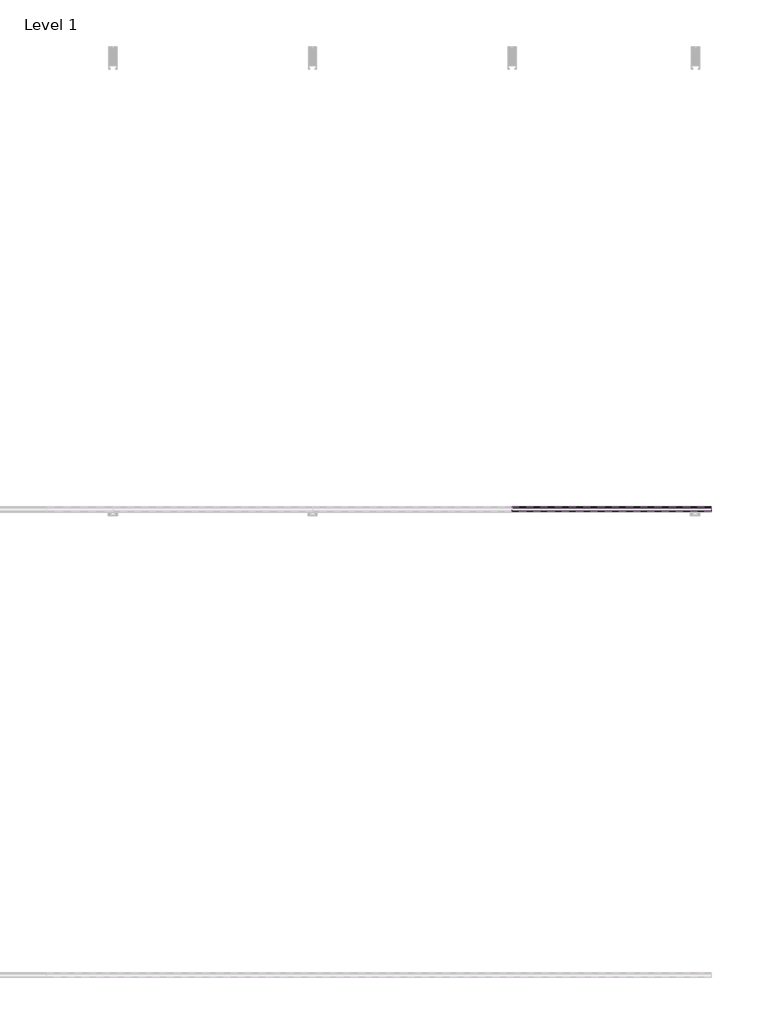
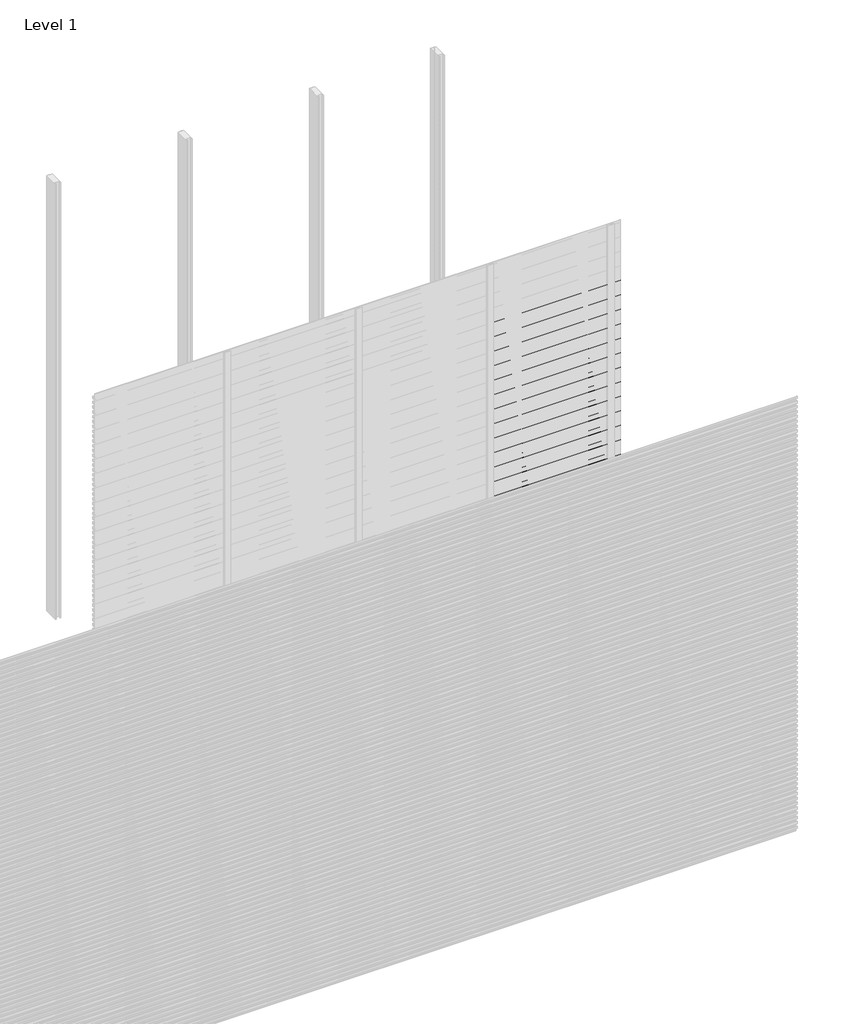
# One storey, part 59 of 96: 77 proxies.
"""IFC4 building model written with IfcOpenShell, lengths in millimetres."""

from ifc_helpers import new_model, si_unit, frame, origin, place, context, project, spatial, polyline, outline, extrude, element, save

model = new_model("IFC4")

# Units and contexts
model_context = context("Model", 3, world=origin())
ifc_project = project(units=[si_unit("LENGTHUNIT", "METRE", prefix="MILLI")], contexts=[model_context])

# Site, building, storey
site = spatial("IfcSite", under=ifc_project)
building = spatial("IfcBuilding", under=site)
storey = spatial("IfcBuildingStorey", under=building, Name="Level 1", Elevation=0.0)

# Proxies
placement = place(None, origin())
element("IfcBuildingElementProxy", 1, Name="Wall Sweeps", at=placement, inside=storey, context=model_context, shape_type="SweptSolid", body=[
    extrude(outline(polyline([(-23977.6, 2638.7655033), (-23977.6, 2624.4779188), (-23982.4114965, 2621.7), (-23982.4114965, 2622.9701706), (-23978.85, 2625.0264016), (-23978.85, 2638.0437382), (-23998.0, 2649.1000799), (-23998.0, 2664.0), (-23996.75, 2664.0), (-23996.75, 2649.8217609), (-23977.6, 2638.7655033)])), frame((5142.8571429, 0.0, 0.0), z_axis=(1.0, 0.0, 0.0), x_axis=(0.0, 1.0, 0.0)), (0.0, 0.0, 1.0), 857.1428571),
])
element("IfcBuildingElementProxy", 2, Name="Wall Sweeps", at=placement, inside=storey, context=model_context, shape_type="SweptSolid", body=[
    extrude(outline(polyline([(-23977.6, 2605.4655033), (-23977.6, 2591.1779188), (-23982.4114965, 2588.4), (-23982.4114965, 2589.6701706), (-23978.85, 2591.7264016), (-23978.85, 2604.7437382), (-23998.0, 2615.8000799), (-23998.0, 2630.7), (-23996.75, 2630.7), (-23996.75, 2616.5217609), (-23977.6, 2605.4655033)])), frame((5142.8571429, 0.0, 0.0), z_axis=(1.0, 0.0, 0.0), x_axis=(0.0, 1.0, 0.0)), (0.0, 0.0, 1.0), 857.1428571),
])
element("IfcBuildingElementProxy", 3, Name="Wall Sweeps", at=placement, inside=storey, context=model_context, shape_type="SweptSolid", body=[
    extrude(outline(polyline([(-23977.6, 2572.1655033), (-23977.6, 2557.8779188), (-23982.4114965, 2555.1), (-23982.4114965, 2556.3701706), (-23978.85, 2558.4264016), (-23978.85, 2571.4437382), (-23998.0, 2582.5000799), (-23998.0, 2597.4), (-23996.75, 2597.4), (-23996.75, 2583.2217609), (-23977.6, 2572.1655033)])), frame((5142.8571429, 0.0, 0.0), z_axis=(1.0, 0.0, 0.0), x_axis=(0.0, 1.0, 0.0)), (0.0, 0.0, 1.0), 857.1428571),
])
element("IfcBuildingElementProxy", 4, Name="Wall Sweeps", at=placement, inside=storey, context=model_context, shape_type="SweptSolid", body=[
    extrude(outline(polyline([(-23977.6, 2538.8655033), (-23977.6, 2524.5779188), (-23982.4114965, 2521.8), (-23982.4114965, 2523.0701706), (-23978.85, 2525.1264016), (-23978.85, 2538.1437382), (-23998.0, 2549.2000799), (-23998.0, 2564.1), (-23996.75, 2564.1), (-23996.75, 2549.9217609), (-23977.6, 2538.8655033)])), frame((5142.8571429, 0.0, 0.0), z_axis=(1.0, 0.0, 0.0), x_axis=(0.0, 1.0, 0.0)), (0.0, 0.0, 1.0), 857.1428571),
])
element("IfcBuildingElementProxy", 5, Name="Wall Sweeps", at=placement, inside=storey, context=model_context, shape_type="SweptSolid", body=[
    extrude(outline(polyline([(-23977.6, 2505.5655033), (-23977.6, 2491.2779188), (-23982.4114965, 2488.5), (-23982.4114965, 2489.7701706), (-23978.85, 2491.8264016), (-23978.85, 2504.8437382), (-23998.0, 2515.9000799), (-23998.0, 2530.8), (-23996.75, 2530.8), (-23996.75, 2516.6217609), (-23977.6, 2505.5655033)])), frame((5142.8571429, 0.0, 0.0), z_axis=(1.0, 0.0, 0.0), x_axis=(0.0, 1.0, 0.0)), (0.0, 0.0, 1.0), 857.1428571),
])
element("IfcBuildingElementProxy", 6, Name="Wall Sweeps", at=placement, inside=storey, context=model_context, shape_type="SweptSolid", body=[
    extrude(outline(polyline([(-23977.6, 2472.2655033), (-23977.6, 2457.9779188), (-23982.4114965, 2455.2), (-23982.4114965, 2456.4701706), (-23978.85, 2458.5264016), (-23978.85, 2471.5437382), (-23998.0, 2482.6000799), (-23998.0, 2497.5), (-23996.75, 2497.5), (-23996.75, 2483.3217609), (-23977.6, 2472.2655033)])), frame((5142.8571429, 0.0, 0.0), z_axis=(1.0, 0.0, 0.0), x_axis=(0.0, 1.0, 0.0)), (0.0, 0.0, 1.0), 857.1428571),
])
element("IfcBuildingElementProxy", 7, Name="Wall Sweeps", at=placement, inside=storey, context=model_context, shape_type="SweptSolid", body=[
    extrude(outline(polyline([(-23977.6, 2438.9655033), (-23977.6, 2424.6779188), (-23982.4114965, 2421.9), (-23982.4114965, 2423.1701706), (-23978.85, 2425.2264016), (-23978.85, 2438.2437382), (-23998.0, 2449.3000799), (-23998.0, 2464.2), (-23996.75, 2464.2), (-23996.75, 2450.0217609), (-23977.6, 2438.9655033)])), frame((5142.8571429, 0.0, 0.0), z_axis=(1.0, 0.0, 0.0), x_axis=(0.0, 1.0, 0.0)), (0.0, 0.0, 1.0), 857.1428571),
])
element("IfcBuildingElementProxy", 8, Name="Wall Sweeps", at=placement, inside=storey, context=model_context, shape_type="SweptSolid", body=[
    extrude(outline(polyline([(-23977.6, 2405.6655033), (-23977.6, 2391.3779188), (-23982.4114965, 2388.6), (-23982.4114965, 2389.8701706), (-23978.85, 2391.9264016), (-23978.85, 2404.9437382), (-23998.0, 2416.0000799), (-23998.0, 2430.9), (-23996.75, 2430.9), (-23996.75, 2416.7217609), (-23977.6, 2405.6655033)])), frame((5142.8571429, 0.0, 0.0), z_axis=(1.0, 0.0, 0.0), x_axis=(0.0, 1.0, 0.0)), (0.0, 0.0, 1.0), 857.1428571),
])
element("IfcBuildingElementProxy", 9, Name="Wall Sweeps", at=placement, inside=storey, context=model_context, shape_type="SweptSolid", body=[
    extrude(outline(polyline([(-23977.6, 2372.3655033), (-23977.6, 2358.0779188), (-23982.4114965, 2355.3), (-23982.4114965, 2356.5701706), (-23978.85, 2358.6264016), (-23978.85, 2371.6437382), (-23998.0, 2382.7000799), (-23998.0, 2397.6), (-23996.75, 2397.6), (-23996.75, 2383.4217609), (-23977.6, 2372.3655033)])), frame((5142.8571429, 0.0, 0.0), z_axis=(1.0, 0.0, 0.0), x_axis=(0.0, 1.0, 0.0)), (0.0, 0.0, 1.0), 857.1428571),
])
element("IfcBuildingElementProxy", 10, Name="Wall Sweeps", at=placement, inside=storey, context=model_context, shape_type="SweptSolid", body=[
    extrude(outline(polyline([(-23977.6, 2339.0655033), (-23977.6, 2324.7779188), (-23982.4114965, 2322.0), (-23982.4114965, 2323.2701706), (-23978.85, 2325.3264016), (-23978.85, 2338.3437382), (-23998.0, 2349.4000799), (-23998.0, 2364.3), (-23996.75, 2364.3), (-23996.75, 2350.1217609), (-23977.6, 2339.0655033)])), frame((5142.8571429, 0.0, 0.0), z_axis=(1.0, 0.0, 0.0), x_axis=(0.0, 1.0, 0.0)), (0.0, 0.0, 1.0), 857.1428571),
])
element("IfcBuildingElementProxy", 11, Name="Wall Sweeps", at=placement, inside=storey, context=model_context, shape_type="SweptSolid", body=[
    extrude(outline(polyline([(-23977.6, 2305.7655033), (-23977.6, 2291.4779188), (-23982.4114965, 2288.7), (-23982.4114965, 2289.9701706), (-23978.85, 2292.0264016), (-23978.85, 2305.0437382), (-23998.0, 2316.1000799), (-23998.0, 2331.0), (-23996.75, 2331.0), (-23996.75, 2316.8217609), (-23977.6, 2305.7655033)])), frame((5142.8571429, 0.0, 0.0), z_axis=(1.0, 0.0, 0.0), x_axis=(0.0, 1.0, 0.0)), (0.0, 0.0, 1.0), 857.1428571),
])
element("IfcBuildingElementProxy", 12, Name="Wall Sweeps", at=placement, inside=storey, context=model_context, shape_type="SweptSolid", body=[
    extrude(outline(polyline([(-23977.6, 2272.4655033), (-23977.6, 2258.1779188), (-23982.4114965, 2255.4), (-23982.4114965, 2256.6701706), (-23978.85, 2258.7264016), (-23978.85, 2271.7437382), (-23998.0, 2282.8000799), (-23998.0, 2297.7), (-23996.75, 2297.7), (-23996.75, 2283.5217609), (-23977.6, 2272.4655033)])), frame((5142.8571429, 0.0, 0.0), z_axis=(1.0, 0.0, 0.0), x_axis=(0.0, 1.0, 0.0)), (0.0, 0.0, 1.0), 857.1428571),
])
element("IfcBuildingElementProxy", 13, Name="Wall Sweeps", at=placement, inside=storey, context=model_context, shape_type="SweptSolid", body=[
    extrude(outline(polyline([(-23977.6, 2239.1655033), (-23977.6, 2224.8779188), (-23982.4114965, 2222.1), (-23982.4114965, 2223.3701706), (-23978.85, 2225.4264016), (-23978.85, 2238.4437382), (-23998.0, 2249.5000799), (-23998.0, 2264.4), (-23996.75, 2264.4), (-23996.75, 2250.2217609), (-23977.6, 2239.1655033)])), frame((5142.8571429, 0.0, 0.0), z_axis=(1.0, 0.0, 0.0), x_axis=(0.0, 1.0, 0.0)), (0.0, 0.0, 1.0), 857.1428571),
])
element("IfcBuildingElementProxy", 14, Name="Wall Sweeps", at=placement, inside=storey, context=model_context, shape_type="SweptSolid", body=[
    extrude(outline(polyline([(-23977.6, 2205.8655033), (-23977.6, 2191.5779188), (-23982.4114965, 2188.8), (-23982.4114965, 2190.0701706), (-23978.85, 2192.1264016), (-23978.85, 2205.1437382), (-23998.0, 2216.2000799), (-23998.0, 2231.1), (-23996.75, 2231.1), (-23996.75, 2216.9217609), (-23977.6, 2205.8655033)])), frame((5142.8571429, 0.0, 0.0), z_axis=(1.0, 0.0, 0.0), x_axis=(0.0, 1.0, 0.0)), (0.0, 0.0, 1.0), 857.1428571),
])
element("IfcBuildingElementProxy", 15, Name="Wall Sweeps", at=placement, inside=storey, context=model_context, shape_type="SweptSolid", body=[
    extrude(outline(polyline([(-23977.6, 2172.5655033), (-23977.6, 2158.2779188), (-23982.4114965, 2155.5), (-23982.4114965, 2156.7701706), (-23978.85, 2158.8264016), (-23978.85, 2171.8437382), (-23998.0, 2182.9000799), (-23998.0, 2197.8), (-23996.75, 2197.8), (-23996.75, 2183.6217609), (-23977.6, 2172.5655033)])), frame((5142.8571429, 0.0, 0.0), z_axis=(1.0, 0.0, 0.0), x_axis=(0.0, 1.0, 0.0)), (0.0, 0.0, 1.0), 857.1428571),
])
element("IfcBuildingElementProxy", 16, Name="Wall Sweeps", at=placement, inside=storey, context=model_context, shape_type="SweptSolid", body=[
    extrude(outline(polyline([(-23977.6, 2139.2655033), (-23977.6, 2124.9779188), (-23982.4114965, 2122.2), (-23982.4114965, 2123.4701706), (-23978.85, 2125.5264016), (-23978.85, 2138.5437382), (-23998.0, 2149.6000799), (-23998.0, 2164.5), (-23996.75, 2164.5), (-23996.75, 2150.3217609), (-23977.6, 2139.2655033)])), frame((5142.8571429, 0.0, 0.0), z_axis=(1.0, 0.0, 0.0), x_axis=(0.0, 1.0, 0.0)), (0.0, 0.0, 1.0), 857.1428571),
])
element("IfcBuildingElementProxy", 17, Name="Wall Sweeps", at=placement, inside=storey, context=model_context, shape_type="SweptSolid", body=[
    extrude(outline(polyline([(-23977.6, 2105.9655033), (-23977.6, 2091.6779188), (-23982.4114965, 2088.9), (-23982.4114965, 2090.1701706), (-23978.85, 2092.2264016), (-23978.85, 2105.2437382), (-23998.0, 2116.3000799), (-23998.0, 2131.2), (-23996.75, 2131.2), (-23996.75, 2117.0217609), (-23977.6, 2105.9655033)])), frame((5142.8571429, 0.0, 0.0), z_axis=(1.0, 0.0, 0.0), x_axis=(0.0, 1.0, 0.0)), (0.0, 0.0, 1.0), 857.1428571),
])
element("IfcBuildingElementProxy", 18, Name="Wall Sweeps", at=placement, inside=storey, context=model_context, shape_type="SweptSolid", body=[
    extrude(outline(polyline([(-23977.6, 2072.6655033), (-23977.6, 2058.3779188), (-23982.4114965, 2055.6), (-23982.4114965, 2056.8701706), (-23978.85, 2058.9264016), (-23978.85, 2071.9437382), (-23998.0, 2083.0000799), (-23998.0, 2097.9), (-23996.75, 2097.9), (-23996.75, 2083.7217609), (-23977.6, 2072.6655033)])), frame((5142.8571429, 0.0, 0.0), z_axis=(1.0, 0.0, 0.0), x_axis=(0.0, 1.0, 0.0)), (0.0, 0.0, 1.0), 857.1428571),
])
element("IfcBuildingElementProxy", 19, Name="Wall Sweeps", at=placement, inside=storey, context=model_context, shape_type="SweptSolid", body=[
    extrude(outline(polyline([(-23977.6, 2039.3655033), (-23977.6, 2025.0779188), (-23982.4114965, 2022.3), (-23982.4114965, 2023.5701706), (-23978.85, 2025.6264016), (-23978.85, 2038.6437382), (-23998.0, 2049.7000799), (-23998.0, 2064.6), (-23996.75, 2064.6), (-23996.75, 2050.4217609), (-23977.6, 2039.3655033)])), frame((5142.8571429, 0.0, 0.0), z_axis=(1.0, 0.0, 0.0), x_axis=(0.0, 1.0, 0.0)), (0.0, 0.0, 1.0), 857.1428571),
])
element("IfcBuildingElementProxy", 20, Name="Wall Sweeps", at=placement, inside=storey, context=model_context, shape_type="SweptSolid", body=[
    extrude(outline(polyline([(-23977.6, 2006.0655033), (-23977.6, 1991.7779188), (-23982.4114965, 1989.0), (-23982.4114965, 1990.2701706), (-23978.85, 1992.3264016), (-23978.85, 2005.3437382), (-23998.0, 2016.4000799), (-23998.0, 2031.3), (-23996.75, 2031.3), (-23996.75, 2017.1217609), (-23977.6, 2006.0655033)])), frame((5142.8571429, 0.0, 0.0), z_axis=(1.0, 0.0, 0.0), x_axis=(0.0, 1.0, 0.0)), (0.0, 0.0, 1.0), 857.1428571),
])
element("IfcBuildingElementProxy", 21, Name="Wall Sweeps", at=placement, inside=storey, context=model_context, shape_type="SweptSolid", body=[
    extrude(outline(polyline([(-23977.6, 1972.7655033), (-23977.6, 1958.4779188), (-23982.4114965, 1955.7), (-23982.4114965, 1956.9701706), (-23978.85, 1959.0264016), (-23978.85, 1972.0437382), (-23998.0, 1983.1000799), (-23998.0, 1998.0), (-23996.75, 1998.0), (-23996.75, 1983.8217609), (-23977.6, 1972.7655033)])), frame((5142.8571429, 0.0, 0.0), z_axis=(1.0, 0.0, 0.0), x_axis=(0.0, 1.0, 0.0)), (0.0, 0.0, 1.0), 857.1428571),
])
element("IfcBuildingElementProxy", 22, Name="Wall Sweeps", at=placement, inside=storey, context=model_context, shape_type="SweptSolid", body=[
    extrude(outline(polyline([(-23977.6, 1939.4655033), (-23977.6, 1925.1779188), (-23982.4114965, 1922.4), (-23982.4114965, 1923.6701706), (-23978.85, 1925.7264016), (-23978.85, 1938.7437382), (-23998.0, 1949.8000799), (-23998.0, 1964.7), (-23996.75, 1964.7), (-23996.75, 1950.5217609), (-23977.6, 1939.4655033)])), frame((5142.8571429, 0.0, 0.0), z_axis=(1.0, 0.0, 0.0), x_axis=(0.0, 1.0, 0.0)), (0.0, 0.0, 1.0), 857.1428571),
])
element("IfcBuildingElementProxy", 23, Name="Wall Sweeps", at=placement, inside=storey, context=model_context, shape_type="SweptSolid", body=[
    extrude(outline(polyline([(-23977.6, 1906.1655033), (-23977.6, 1891.8779188), (-23982.4114965, 1889.1), (-23982.4114965, 1890.3701706), (-23978.85, 1892.4264016), (-23978.85, 1905.4437382), (-23998.0, 1916.5000799), (-23998.0, 1931.4), (-23996.75, 1931.4), (-23996.75, 1917.2217609), (-23977.6, 1906.1655033)])), frame((5142.8571429, 0.0, 0.0), z_axis=(1.0, 0.0, 0.0), x_axis=(0.0, 1.0, 0.0)), (0.0, 0.0, 1.0), 857.1428571),
])
element("IfcBuildingElementProxy", 24, Name="Wall Sweeps", at=placement, inside=storey, context=model_context, shape_type="SweptSolid", body=[
    extrude(outline(polyline([(-23977.6, 1872.8655033), (-23977.6, 1858.5779188), (-23982.4114965, 1855.8), (-23982.4114965, 1857.0701706), (-23978.85, 1859.1264016), (-23978.85, 1872.1437382), (-23998.0, 1883.2000799), (-23998.0, 1898.1), (-23996.75, 1898.1), (-23996.75, 1883.9217609), (-23977.6, 1872.8655033)])), frame((5142.8571429, 0.0, 0.0), z_axis=(1.0, 0.0, 0.0), x_axis=(0.0, 1.0, 0.0)), (0.0, 0.0, 1.0), 857.1428571),
])
element("IfcBuildingElementProxy", 25, Name="Wall Sweeps", at=placement, inside=storey, context=model_context, shape_type="SweptSolid", body=[
    extrude(outline(polyline([(-23977.6, 1839.5655033), (-23977.6, 1825.2779188), (-23982.4114965, 1822.5), (-23982.4114965, 1823.7701706), (-23978.85, 1825.8264016), (-23978.85, 1838.8437382), (-23998.0, 1849.9000799), (-23998.0, 1864.8), (-23996.75, 1864.8), (-23996.75, 1850.6217609), (-23977.6, 1839.5655033)])), frame((5142.8571429, 0.0, 0.0), z_axis=(1.0, 0.0, 0.0), x_axis=(0.0, 1.0, 0.0)), (0.0, 0.0, 1.0), 857.1428571),
])
element("IfcBuildingElementProxy", 26, Name="Wall Sweeps", at=placement, inside=storey, context=model_context, shape_type="SweptSolid", body=[
    extrude(outline(polyline([(-23977.6, 1806.2655033), (-23977.6, 1791.9779188), (-23982.4114965, 1789.2), (-23982.4114965, 1790.4701706), (-23978.85, 1792.5264016), (-23978.85, 1805.5437382), (-23998.0, 1816.6000799), (-23998.0, 1831.5), (-23996.75, 1831.5), (-23996.75, 1817.3217609), (-23977.6, 1806.2655033)])), frame((5142.8571429, 0.0, 0.0), z_axis=(1.0, 0.0, 0.0), x_axis=(0.0, 1.0, 0.0)), (0.0, 0.0, 1.0), 857.1428571),
])
element("IfcBuildingElementProxy", 27, Name="Wall Sweeps", at=placement, inside=storey, context=model_context, shape_type="SweptSolid", body=[
    extrude(outline(polyline([(-23977.6, 1772.9655033), (-23977.6, 1758.6779188), (-23982.4114965, 1755.9), (-23982.4114965, 1757.1701706), (-23978.85, 1759.2264016), (-23978.85, 1772.2437382), (-23998.0, 1783.3000799), (-23998.0, 1798.2), (-23996.75, 1798.2), (-23996.75, 1784.0217609), (-23977.6, 1772.9655033)])), frame((5142.8571429, 0.0, 0.0), z_axis=(1.0, 0.0, 0.0), x_axis=(0.0, 1.0, 0.0)), (0.0, 0.0, 1.0), 857.1428571),
])
element("IfcBuildingElementProxy", 28, Name="Wall Sweeps", at=placement, inside=storey, context=model_context, shape_type="SweptSolid", body=[
    extrude(outline(polyline([(-23977.6, 1739.6655033), (-23977.6, 1725.3779188), (-23982.4114965, 1722.6), (-23982.4114965, 1723.8701706), (-23978.85, 1725.9264016), (-23978.85, 1738.9437382), (-23998.0, 1750.0000799), (-23998.0, 1764.9), (-23996.75, 1764.9), (-23996.75, 1750.7217609), (-23977.6, 1739.6655033)])), frame((5142.8571429, 0.0, 0.0), z_axis=(1.0, 0.0, 0.0), x_axis=(0.0, 1.0, 0.0)), (0.0, 0.0, 1.0), 857.1428571),
])
element("IfcBuildingElementProxy", 29, Name="Wall Sweeps", at=placement, inside=storey, context=model_context, shape_type="SweptSolid", body=[
    extrude(outline(polyline([(-23977.6, 1706.3655033), (-23977.6, 1692.0779188), (-23982.4114965, 1689.3), (-23982.4114965, 1690.5701706), (-23978.85, 1692.6264016), (-23978.85, 1705.6437382), (-23998.0, 1716.7000799), (-23998.0, 1731.6), (-23996.75, 1731.6), (-23996.75, 1717.4217609), (-23977.6, 1706.3655033)])), frame((5142.8571429, 0.0, 0.0), z_axis=(1.0, 0.0, 0.0), x_axis=(0.0, 1.0, 0.0)), (0.0, 0.0, 1.0), 857.1428571),
])
element("IfcBuildingElementProxy", 30, Name="Wall Sweeps", at=placement, inside=storey, context=model_context, shape_type="SweptSolid", body=[
    extrude(outline(polyline([(-23977.6, 1673.0655033), (-23977.6, 1658.7779188), (-23982.4114965, 1656.0), (-23982.4114965, 1657.2701706), (-23978.85, 1659.3264016), (-23978.85, 1672.3437382), (-23998.0, 1683.4000799), (-23998.0, 1698.3), (-23996.75, 1698.3), (-23996.75, 1684.1217609), (-23977.6, 1673.0655033)])), frame((5142.8571429, 0.0, 0.0), z_axis=(1.0, 0.0, 0.0), x_axis=(0.0, 1.0, 0.0)), (0.0, 0.0, 1.0), 857.1428571),
])
element("IfcBuildingElementProxy", 31, Name="Wall Sweeps", at=placement, inside=storey, context=model_context, shape_type="SweptSolid", body=[
    extrude(outline(polyline([(-23977.6, 1639.7655033), (-23977.6, 1625.4779188), (-23982.4114965, 1622.7), (-23982.4114965, 1623.9701706), (-23978.85, 1626.0264016), (-23978.85, 1639.0437382), (-23998.0, 1650.1000799), (-23998.0, 1665.0), (-23996.75, 1665.0), (-23996.75, 1650.8217609), (-23977.6, 1639.7655033)])), frame((5142.8571429, 0.0, 0.0), z_axis=(1.0, 0.0, 0.0), x_axis=(0.0, 1.0, 0.0)), (0.0, 0.0, 1.0), 857.1428571),
])
element("IfcBuildingElementProxy", 32, Name="Wall Sweeps", at=placement, inside=storey, context=model_context, shape_type="SweptSolid", body=[
    extrude(outline(polyline([(-23977.6, 1606.4655033), (-23977.6, 1592.1779188), (-23982.4114965, 1589.4), (-23982.4114965, 1590.6701706), (-23978.85, 1592.7264016), (-23978.85, 1605.7437382), (-23998.0, 1616.8000799), (-23998.0, 1631.7), (-23996.75, 1631.7), (-23996.75, 1617.5217609), (-23977.6, 1606.4655033)])), frame((5142.8571429, 0.0, 0.0), z_axis=(1.0, 0.0, 0.0), x_axis=(0.0, 1.0, 0.0)), (0.0, 0.0, 1.0), 857.1428571),
])
element("IfcBuildingElementProxy", 33, Name="Wall Sweeps", at=placement, inside=storey, context=model_context, shape_type="SweptSolid", body=[
    extrude(outline(polyline([(-23977.6, 1573.1655033), (-23977.6, 1558.8779188), (-23982.4114965, 1556.1), (-23982.4114965, 1557.3701706), (-23978.85, 1559.4264016), (-23978.85, 1572.4437382), (-23998.0, 1583.5000799), (-23998.0, 1598.4), (-23996.75, 1598.4), (-23996.75, 1584.2217609), (-23977.6, 1573.1655033)])), frame((5142.8571429, 0.0, 0.0), z_axis=(1.0, 0.0, 0.0), x_axis=(0.0, 1.0, 0.0)), (0.0, 0.0, 1.0), 857.1428571),
])
element("IfcBuildingElementProxy", 34, Name="Wall Sweeps", at=placement, inside=storey, context=model_context, shape_type="SweptSolid", body=[
    extrude(outline(polyline([(-23977.6, 1539.8655033), (-23977.6, 1525.5779188), (-23982.4114965, 1522.8), (-23982.4114965, 1524.0701706), (-23978.85, 1526.1264016), (-23978.85, 1539.1437382), (-23998.0, 1550.2000799), (-23998.0, 1565.1), (-23996.75, 1565.1), (-23996.75, 1550.9217609), (-23977.6, 1539.8655033)])), frame((5142.8571429, 0.0, 0.0), z_axis=(1.0, 0.0, 0.0), x_axis=(0.0, 1.0, 0.0)), (0.0, 0.0, 1.0), 857.1428571),
])
element("IfcBuildingElementProxy", 35, Name="Wall Sweeps", at=placement, inside=storey, context=model_context, shape_type="SweptSolid", body=[
    extrude(outline(polyline([(-23977.6, 1506.5655033), (-23977.6, 1492.2779188), (-23982.4114965, 1489.5), (-23982.4114965, 1490.7701706), (-23978.85, 1492.8264016), (-23978.85, 1505.8437382), (-23998.0, 1516.9000799), (-23998.0, 1531.8), (-23996.75, 1531.8), (-23996.75, 1517.6217609), (-23977.6, 1506.5655033)])), frame((5142.8571429, 0.0, 0.0), z_axis=(1.0, 0.0, 0.0), x_axis=(0.0, 1.0, 0.0)), (0.0, 0.0, 1.0), 857.1428571),
])
element("IfcBuildingElementProxy", 36, Name="Wall Sweeps", at=placement, inside=storey, context=model_context, shape_type="SweptSolid", body=[
    extrude(outline(polyline([(-23977.6, 1473.2655033), (-23977.6, 1458.9779188), (-23982.4114965, 1456.2), (-23982.4114965, 1457.4701706), (-23978.85, 1459.5264016), (-23978.85, 1472.5437382), (-23998.0, 1483.6000799), (-23998.0, 1498.5), (-23996.75, 1498.5), (-23996.75, 1484.3217609), (-23977.6, 1473.2655033)])), frame((5142.8571429, 0.0, 0.0), z_axis=(1.0, 0.0, 0.0), x_axis=(0.0, 1.0, 0.0)), (0.0, 0.0, 1.0), 857.1428571),
])
element("IfcBuildingElementProxy", 37, Name="Wall Sweeps", at=placement, inside=storey, context=model_context, shape_type="SweptSolid", body=[
    extrude(outline(polyline([(-23977.6, 1439.9655033), (-23977.6, 1425.6779188), (-23982.4114965, 1422.9), (-23982.4114965, 1424.1701706), (-23978.85, 1426.2264016), (-23978.85, 1439.2437382), (-23998.0, 1450.3000799), (-23998.0, 1465.2), (-23996.75, 1465.2), (-23996.75, 1451.0217609), (-23977.6, 1439.9655033)])), frame((5142.8571429, 0.0, 0.0), z_axis=(1.0, 0.0, 0.0), x_axis=(0.0, 1.0, 0.0)), (0.0, 0.0, 1.0), 857.1428571),
])
element("IfcBuildingElementProxy", 38, Name="Wall Sweeps", at=placement, inside=storey, context=model_context, shape_type="SweptSolid", body=[
    extrude(outline(polyline([(-23977.6, 1406.6655033), (-23977.6, 1392.3779188), (-23982.4114965, 1389.6), (-23982.4114965, 1390.8701706), (-23978.85, 1392.9264016), (-23978.85, 1405.9437382), (-23998.0, 1417.0000799), (-23998.0, 1431.9), (-23996.75, 1431.9), (-23996.75, 1417.7217609), (-23977.6, 1406.6655033)])), frame((5142.8571429, 0.0, 0.0), z_axis=(1.0, 0.0, 0.0), x_axis=(0.0, 1.0, 0.0)), (0.0, 0.0, 1.0), 857.1428571),
])
element("IfcBuildingElementProxy", 39, Name="Wall Sweeps", at=placement, inside=storey, context=model_context, shape_type="SweptSolid", body=[
    extrude(outline(polyline([(-23977.6, 1373.3655033), (-23977.6, 1359.0779188), (-23982.4114965, 1356.3), (-23982.4114965, 1357.5701706), (-23978.85, 1359.6264016), (-23978.85, 1372.6437382), (-23998.0, 1383.7000799), (-23998.0, 1398.6), (-23996.75, 1398.6), (-23996.75, 1384.4217609), (-23977.6, 1373.3655033)])), frame((5142.8571429, 0.0, 0.0), z_axis=(1.0, 0.0, 0.0), x_axis=(0.0, 1.0, 0.0)), (0.0, 0.0, 1.0), 857.1428571),
])
element("IfcBuildingElementProxy", 40, Name="Wall Sweeps", at=placement, inside=storey, context=model_context, shape_type="SweptSolid", body=[
    extrude(outline(polyline([(-23977.6, 1340.0655033), (-23977.6, 1325.7779188), (-23982.4114965, 1323.0), (-23982.4114965, 1324.2701706), (-23978.85, 1326.3264016), (-23978.85, 1339.3437382), (-23998.0, 1350.4000799), (-23998.0, 1365.3), (-23996.75, 1365.3), (-23996.75, 1351.1217609), (-23977.6, 1340.0655033)])), frame((5142.8571429, 0.0, 0.0), z_axis=(1.0, 0.0, 0.0), x_axis=(0.0, 1.0, 0.0)), (0.0, 0.0, 1.0), 857.1428571),
])
element("IfcBuildingElementProxy", 41, Name="Wall Sweeps", at=placement, inside=storey, context=model_context, shape_type="SweptSolid", body=[
    extrude(outline(polyline([(-23977.6, 1306.7655033), (-23977.6, 1292.4779188), (-23982.4114965, 1289.7), (-23982.4114965, 1290.9701706), (-23978.85, 1293.0264016), (-23978.85, 1306.0437382), (-23998.0, 1317.1000799), (-23998.0, 1332.0), (-23996.75, 1332.0), (-23996.75, 1317.8217609), (-23977.6, 1306.7655033)])), frame((5142.8571429, 0.0, 0.0), z_axis=(1.0, 0.0, 0.0), x_axis=(0.0, 1.0, 0.0)), (0.0, 0.0, 1.0), 857.1428571),
])
element("IfcBuildingElementProxy", 42, Name="Wall Sweeps", at=placement, inside=storey, context=model_context, shape_type="SweptSolid", body=[
    extrude(outline(polyline([(-23977.6, 1273.4655033), (-23977.6, 1259.1779188), (-23982.4114965, 1256.4), (-23982.4114965, 1257.6701706), (-23978.85, 1259.7264016), (-23978.85, 1272.7437382), (-23998.0, 1283.8000799), (-23998.0, 1298.7), (-23996.75, 1298.7), (-23996.75, 1284.5217609), (-23977.6, 1273.4655033)])), frame((5142.8571429, 0.0, 0.0), z_axis=(1.0, 0.0, 0.0), x_axis=(0.0, 1.0, 0.0)), (0.0, 0.0, 1.0), 857.1428571),
])
element("IfcBuildingElementProxy", 43, Name="Wall Sweeps", at=placement, inside=storey, context=model_context, shape_type="SweptSolid", body=[
    extrude(outline(polyline([(-23977.6, 1240.1655033), (-23977.6, 1225.8779188), (-23982.4114965, 1223.1), (-23982.4114965, 1224.3701706), (-23978.85, 1226.4264016), (-23978.85, 1239.4437382), (-23998.0, 1250.5000799), (-23998.0, 1265.4), (-23996.75, 1265.4), (-23996.75, 1251.2217609), (-23977.6, 1240.1655033)])), frame((5142.8571429, 0.0, 0.0), z_axis=(1.0, 0.0, 0.0), x_axis=(0.0, 1.0, 0.0)), (0.0, 0.0, 1.0), 857.1428571),
])
element("IfcBuildingElementProxy", 44, Name="Wall Sweeps", at=placement, inside=storey, context=model_context, shape_type="SweptSolid", body=[
    extrude(outline(polyline([(-23977.6, 1206.8655033), (-23977.6, 1192.5779188), (-23982.4114965, 1189.8), (-23982.4114965, 1191.0701706), (-23978.85, 1193.1264016), (-23978.85, 1206.1437382), (-23998.0, 1217.2000799), (-23998.0, 1232.1), (-23996.75, 1232.1), (-23996.75, 1217.9217609), (-23977.6, 1206.8655033)])), frame((5142.8571429, 0.0, 0.0), z_axis=(1.0, 0.0, 0.0), x_axis=(0.0, 1.0, 0.0)), (0.0, 0.0, 1.0), 857.1428571),
])
element("IfcBuildingElementProxy", 45, Name="Wall Sweeps", at=placement, inside=storey, context=model_context, shape_type="SweptSolid", body=[
    extrude(outline(polyline([(-23977.6, 1173.5655033), (-23977.6, 1159.2779188), (-23982.4114965, 1156.5), (-23982.4114965, 1157.7701706), (-23978.85, 1159.8264016), (-23978.85, 1172.8437382), (-23998.0, 1183.9000799), (-23998.0, 1198.8), (-23996.75, 1198.8), (-23996.75, 1184.6217609), (-23977.6, 1173.5655033)])), frame((5142.8571429, 0.0, 0.0), z_axis=(1.0, 0.0, 0.0), x_axis=(0.0, 1.0, 0.0)), (0.0, 0.0, 1.0), 857.1428571),
])
element("IfcBuildingElementProxy", 46, Name="Wall Sweeps", at=placement, inside=storey, context=model_context, shape_type="SweptSolid", body=[
    extrude(outline(polyline([(-23977.6, 1140.2655033), (-23977.6, 1125.9779188), (-23982.4114965, 1123.2), (-23982.4114965, 1124.4701706), (-23978.85, 1126.5264016), (-23978.85, 1139.5437382), (-23998.0, 1150.6000799), (-23998.0, 1165.5), (-23996.75, 1165.5), (-23996.75, 1151.3217609), (-23977.6, 1140.2655033)])), frame((5142.8571429, 0.0, 0.0), z_axis=(1.0, 0.0, 0.0), x_axis=(0.0, 1.0, 0.0)), (0.0, 0.0, 1.0), 857.1428571),
])
element("IfcBuildingElementProxy", 47, Name="Wall Sweeps", at=placement, inside=storey, context=model_context, shape_type="SweptSolid", body=[
    extrude(outline(polyline([(-23977.6, 1106.9655033), (-23977.6, 1092.6779188), (-23982.4114965, 1089.9), (-23982.4114965, 1091.1701706), (-23978.85, 1093.2264016), (-23978.85, 1106.2437382), (-23998.0, 1117.3000799), (-23998.0, 1132.2), (-23996.75, 1132.2), (-23996.75, 1118.0217609), (-23977.6, 1106.9655033)])), frame((5142.8571429, 0.0, 0.0), z_axis=(1.0, 0.0, 0.0), x_axis=(0.0, 1.0, 0.0)), (0.0, 0.0, 1.0), 857.1428571),
])
element("IfcBuildingElementProxy", 48, Name="Wall Sweeps", at=placement, inside=storey, context=model_context, shape_type="SweptSolid", body=[
    extrude(outline(polyline([(-23977.6, 1073.6655033), (-23977.6, 1059.3779188), (-23982.4114965, 1056.6), (-23982.4114965, 1057.8701706), (-23978.85, 1059.9264016), (-23978.85, 1072.9437382), (-23998.0, 1084.0000799), (-23998.0, 1098.9), (-23996.75, 1098.9), (-23996.75, 1084.7217609), (-23977.6, 1073.6655033)])), frame((5142.8571429, 0.0, 0.0), z_axis=(1.0, 0.0, 0.0), x_axis=(0.0, 1.0, 0.0)), (0.0, 0.0, 1.0), 857.1428571),
])
element("IfcBuildingElementProxy", 49, Name="Wall Sweeps", at=placement, inside=storey, context=model_context, shape_type="SweptSolid", body=[
    extrude(outline(polyline([(-23977.6, 1040.3655033), (-23977.6, 1026.0779188), (-23982.4114965, 1023.3), (-23982.4114965, 1024.5701706), (-23978.85, 1026.6264016), (-23978.85, 1039.6437382), (-23998.0, 1050.7000799), (-23998.0, 1065.6), (-23996.75, 1065.6), (-23996.75, 1051.4217609), (-23977.6, 1040.3655033)])), frame((5142.8571429, 0.0, 0.0), z_axis=(1.0, 0.0, 0.0), x_axis=(0.0, 1.0, 0.0)), (0.0, 0.0, 1.0), 857.1428571),
])
element("IfcBuildingElementProxy", 50, Name="Wall Sweeps", at=placement, inside=storey, context=model_context, shape_type="SweptSolid", body=[
    extrude(outline(polyline([(-23977.6, 1007.0655033), (-23977.6, 992.7779188), (-23982.4114965, 990.0), (-23982.4114965, 991.2701706), (-23978.85, 993.3264016), (-23978.85, 1006.3437382), (-23998.0, 1017.4000799), (-23998.0, 1032.3), (-23996.75, 1032.3), (-23996.75, 1018.1217609), (-23977.6, 1007.0655033)])), frame((5142.8571429, 0.0, 0.0), z_axis=(1.0, 0.0, 0.0), x_axis=(0.0, 1.0, 0.0)), (0.0, 0.0, 1.0), 857.1428571),
])
element("IfcBuildingElementProxy", 51, Name="Wall Sweeps", at=placement, inside=storey, context=model_context, shape_type="SweptSolid", body=[
    extrude(outline(polyline([(-23977.6, 973.7655033), (-23977.6, 959.4779188), (-23982.4114965, 956.7), (-23982.4114965, 957.9701706), (-23978.85, 960.0264016), (-23978.85, 973.0437382), (-23998.0, 984.1000799), (-23998.0, 999.0), (-23996.75, 999.0), (-23996.75, 984.8217609), (-23977.6, 973.7655033)])), frame((5142.8571429, 0.0, 0.0), z_axis=(1.0, 0.0, 0.0), x_axis=(0.0, 1.0, 0.0)), (0.0, 0.0, 1.0), 857.1428571),
])
element("IfcBuildingElementProxy", 52, Name="Wall Sweeps", at=placement, inside=storey, context=model_context, shape_type="SweptSolid", body=[
    extrude(outline(polyline([(-23977.6, 940.4655033), (-23977.6, 926.1779188), (-23982.4114965, 923.4), (-23982.4114965, 924.6701706), (-23978.85, 926.7264016), (-23978.85, 939.7437382), (-23998.0, 950.8000799), (-23998.0, 965.7), (-23996.75, 965.7), (-23996.75, 951.5217609), (-23977.6, 940.4655033)])), frame((5142.8571429, 0.0, 0.0), z_axis=(1.0, 0.0, 0.0), x_axis=(0.0, 1.0, 0.0)), (0.0, 0.0, 1.0), 857.1428571),
])
element("IfcBuildingElementProxy", 53, Name="Wall Sweeps", at=placement, inside=storey, context=model_context, shape_type="SweptSolid", body=[
    extrude(outline(polyline([(-23977.6, 907.1655033), (-23977.6, 892.8779188), (-23982.4114965, 890.1), (-23982.4114965, 891.3701706), (-23978.85, 893.4264016), (-23978.85, 906.4437382), (-23998.0, 917.5000799), (-23998.0, 932.4), (-23996.75, 932.4), (-23996.75, 918.2217609), (-23977.6, 907.1655033)])), frame((5142.8571429, 0.0, 0.0), z_axis=(1.0, 0.0, 0.0), x_axis=(0.0, 1.0, 0.0)), (0.0, 0.0, 1.0), 857.1428571),
])
element("IfcBuildingElementProxy", 54, Name="Wall Sweeps", at=placement, inside=storey, context=model_context, shape_type="SweptSolid", body=[
    extrude(outline(polyline([(-23977.6, 873.8655033), (-23977.6, 859.5779188), (-23982.4114965, 856.8), (-23982.4114965, 858.0701706), (-23978.85, 860.1264016), (-23978.85, 873.1437382), (-23998.0, 884.2000799), (-23998.0, 899.1), (-23996.75, 899.1), (-23996.75, 884.9217609), (-23977.6, 873.8655033)])), frame((5142.8571429, 0.0, 0.0), z_axis=(1.0, 0.0, 0.0), x_axis=(0.0, 1.0, 0.0)), (0.0, 0.0, 1.0), 857.1428571),
])
element("IfcBuildingElementProxy", 55, Name="Wall Sweeps", at=placement, inside=storey, context=model_context, shape_type="SweptSolid", body=[
    extrude(outline(polyline([(-23977.6, 840.5655033), (-23977.6, 826.2779188), (-23982.4114965, 823.5), (-23982.4114965, 824.7701706), (-23978.85, 826.8264016), (-23978.85, 839.8437382), (-23998.0, 850.9000799), (-23998.0, 865.8), (-23996.75, 865.8), (-23996.75, 851.6217609), (-23977.6, 840.5655033)])), frame((5142.8571429, 0.0, 0.0), z_axis=(1.0, 0.0, 0.0), x_axis=(0.0, 1.0, 0.0)), (0.0, 0.0, 1.0), 857.1428571),
])
element("IfcBuildingElementProxy", 56, Name="Wall Sweeps", at=placement, inside=storey, context=model_context, shape_type="SweptSolid", body=[
    extrude(outline(polyline([(-23977.6, 807.2655033), (-23977.6, 792.9779188), (-23982.4114965, 790.2), (-23982.4114965, 791.4701706), (-23978.85, 793.5264016), (-23978.85, 806.5437382), (-23998.0, 817.6000799), (-23998.0, 832.5), (-23996.75, 832.5), (-23996.75, 818.3217609), (-23977.6, 807.2655033)])), frame((5142.8571429, 0.0, 0.0), z_axis=(1.0, 0.0, 0.0), x_axis=(0.0, 1.0, 0.0)), (0.0, 0.0, 1.0), 857.1428571),
])
element("IfcBuildingElementProxy", 57, Name="Wall Sweeps", at=placement, inside=storey, context=model_context, shape_type="SweptSolid", body=[
    extrude(outline(polyline([(-23977.6, 773.9655033), (-23977.6, 759.6779188), (-23982.4114965, 756.9), (-23982.4114965, 758.1701706), (-23978.85, 760.2264016), (-23978.85, 773.2437382), (-23998.0, 784.3000799), (-23998.0, 799.2), (-23996.75, 799.2), (-23996.75, 785.0217609), (-23977.6, 773.9655033)])), frame((5142.8571429, 0.0, 0.0), z_axis=(1.0, 0.0, 0.0), x_axis=(0.0, 1.0, 0.0)), (0.0, 0.0, 1.0), 857.1428571),
])
element("IfcBuildingElementProxy", 58, Name="Wall Sweeps", at=placement, inside=storey, context=model_context, shape_type="SweptSolid", body=[
    extrude(outline(polyline([(-23977.6, 740.6655033), (-23977.6, 726.3779188), (-23982.4114965, 723.6), (-23982.4114965, 724.8701706), (-23978.85, 726.9264016), (-23978.85, 739.9437382), (-23998.0, 751.0000799), (-23998.0, 765.9), (-23996.75, 765.9), (-23996.75, 751.7217609), (-23977.6, 740.6655033)])), frame((5142.8571429, 0.0, 0.0), z_axis=(1.0, 0.0, 0.0), x_axis=(0.0, 1.0, 0.0)), (0.0, 0.0, 1.0), 857.1428571),
])
element("IfcBuildingElementProxy", 59, Name="Wall Sweeps", at=placement, inside=storey, context=model_context, shape_type="SweptSolid", body=[
    extrude(outline(polyline([(-23977.6, 707.3655033), (-23977.6, 693.0779188), (-23982.4114965, 690.3), (-23982.4114965, 691.5701706), (-23978.85, 693.6264016), (-23978.85, 706.6437382), (-23998.0, 717.7000799), (-23998.0, 732.6), (-23996.75, 732.6), (-23996.75, 718.4217609), (-23977.6, 707.3655033)])), frame((5142.8571429, 0.0, 0.0), z_axis=(1.0, 0.0, 0.0), x_axis=(0.0, 1.0, 0.0)), (0.0, 0.0, 1.0), 857.1428571),
])
element("IfcBuildingElementProxy", 60, Name="Wall Sweeps", at=placement, inside=storey, context=model_context, shape_type="SweptSolid", body=[
    extrude(outline(polyline([(-23977.6, 674.0655033), (-23977.6, 659.7779188), (-23982.4114965, 657.0), (-23982.4114965, 658.2701706), (-23978.85, 660.3264016), (-23978.85, 673.3437382), (-23998.0, 684.4000799), (-23998.0, 699.3), (-23996.75, 699.3), (-23996.75, 685.1217609), (-23977.6, 674.0655033)])), frame((5142.8571429, 0.0, 0.0), z_axis=(1.0, 0.0, 0.0), x_axis=(0.0, 1.0, 0.0)), (0.0, 0.0, 1.0), 857.1428571),
])
element("IfcBuildingElementProxy", 61, Name="Wall Sweeps", at=placement, inside=storey, context=model_context, shape_type="SweptSolid", body=[
    extrude(outline(polyline([(-23977.6, 640.7655033), (-23977.6, 626.4779188), (-23982.4114965, 623.7), (-23982.4114965, 624.9701706), (-23978.85, 627.0264016), (-23978.85, 640.0437382), (-23998.0, 651.1000799), (-23998.0, 666.0), (-23996.75, 666.0), (-23996.75, 651.8217609), (-23977.6, 640.7655033)])), frame((5142.8571429, 0.0, 0.0), z_axis=(1.0, 0.0, 0.0), x_axis=(0.0, 1.0, 0.0)), (0.0, 0.0, 1.0), 857.1428571),
])
element("IfcBuildingElementProxy", 62, Name="Wall Sweeps", at=placement, inside=storey, context=model_context, shape_type="SweptSolid", body=[
    extrude(outline(polyline([(-23977.6, 607.4655033), (-23977.6, 593.1779188), (-23982.4114965, 590.4), (-23982.4114965, 591.6701706), (-23978.85, 593.7264016), (-23978.85, 606.7437382), (-23998.0, 617.8000799), (-23998.0, 632.7), (-23996.75, 632.7), (-23996.75, 618.5217609), (-23977.6, 607.4655033)])), frame((5142.8571429, 0.0, 0.0), z_axis=(1.0, 0.0, 0.0), x_axis=(0.0, 1.0, 0.0)), (0.0, 0.0, 1.0), 857.1428571),
])
element("IfcBuildingElementProxy", 63, Name="Wall Sweeps", at=placement, inside=storey, context=model_context, shape_type="SweptSolid", body=[
    extrude(outline(polyline([(-23977.6, 574.1655033), (-23977.6, 559.8779188), (-23982.4114965, 557.1), (-23982.4114965, 558.3701706), (-23978.85, 560.4264016), (-23978.85, 573.4437382), (-23998.0, 584.5000799), (-23998.0, 599.4), (-23996.75, 599.4), (-23996.75, 585.2217609), (-23977.6, 574.1655033)])), frame((5142.8571429, 0.0, 0.0), z_axis=(1.0, 0.0, 0.0), x_axis=(0.0, 1.0, 0.0)), (0.0, 0.0, 1.0), 857.1428571),
])
element("IfcBuildingElementProxy", 64, Name="Wall Sweeps", at=placement, inside=storey, context=model_context, shape_type="SweptSolid", body=[
    extrude(outline(polyline([(-23977.6, 540.8655033), (-23977.6, 526.5779188), (-23982.4114965, 523.8), (-23982.4114965, 525.0701706), (-23978.85, 527.1264016), (-23978.85, 540.1437382), (-23998.0, 551.2000799), (-23998.0, 566.1), (-23996.75, 566.1), (-23996.75, 551.9217609), (-23977.6, 540.8655033)])), frame((5142.8571429, 0.0, 0.0), z_axis=(1.0, 0.0, 0.0), x_axis=(0.0, 1.0, 0.0)), (0.0, 0.0, 1.0), 857.1428571),
])
element("IfcBuildingElementProxy", 65, Name="Wall Sweeps", at=placement, inside=storey, context=model_context, shape_type="SweptSolid", body=[
    extrude(outline(polyline([(-23977.6, 507.5655033), (-23977.6, 493.2779188), (-23982.4114965, 490.5), (-23982.4114965, 491.7701706), (-23978.85, 493.8264016), (-23978.85, 506.8437382), (-23998.0, 517.9000799), (-23998.0, 532.8), (-23996.75, 532.8), (-23996.75, 518.6217609), (-23977.6, 507.5655033)])), frame((5142.8571429, 0.0, 0.0), z_axis=(1.0, 0.0, 0.0), x_axis=(0.0, 1.0, 0.0)), (0.0, 0.0, 1.0), 857.1428571),
])
element("IfcBuildingElementProxy", 66, Name="Wall Sweeps", at=placement, inside=storey, context=model_context, shape_type="SweptSolid", body=[
    extrude(outline(polyline([(-23977.6, 474.2655033), (-23977.6, 459.9779188), (-23982.4114965, 457.2), (-23982.4114965, 458.4701706), (-23978.85, 460.5264016), (-23978.85, 473.5437382), (-23998.0, 484.6000799), (-23998.0, 499.5), (-23996.75, 499.5), (-23996.75, 485.3217609), (-23977.6, 474.2655033)])), frame((5142.8571429, 0.0, 0.0), z_axis=(1.0, 0.0, 0.0), x_axis=(0.0, 1.0, 0.0)), (0.0, 0.0, 1.0), 857.1428571),
])
element("IfcBuildingElementProxy", 67, Name="Wall Sweeps", at=placement, inside=storey, context=model_context, shape_type="SweptSolid", body=[
    extrude(outline(polyline([(-23977.6, 440.9655033), (-23977.6, 426.6779188), (-23982.4114965, 423.9), (-23982.4114965, 425.1701706), (-23978.85, 427.2264016), (-23978.85, 440.2437382), (-23998.0, 451.3000799), (-23998.0, 466.2), (-23996.75, 466.2), (-23996.75, 452.0217609), (-23977.6, 440.9655033)])), frame((5142.8571429, 0.0, 0.0), z_axis=(1.0, 0.0, 0.0), x_axis=(0.0, 1.0, 0.0)), (0.0, 0.0, 1.0), 857.1428571),
])
element("IfcBuildingElementProxy", 68, Name="Wall Sweeps", at=placement, inside=storey, context=model_context, shape_type="SweptSolid", body=[
    extrude(outline(polyline([(-23977.6, 407.6655033), (-23977.6, 393.3779188), (-23982.4114965, 390.6), (-23982.4114965, 391.8701706), (-23978.85, 393.9264016), (-23978.85, 406.9437382), (-23998.0, 418.0000799), (-23998.0, 432.9), (-23996.75, 432.9), (-23996.75, 418.7217609), (-23977.6, 407.6655033)])), frame((5142.8571429, 0.0, 0.0), z_axis=(1.0, 0.0, 0.0), x_axis=(0.0, 1.0, 0.0)), (0.0, 0.0, 1.0), 857.1428571),
])
element("IfcBuildingElementProxy", 69, Name="Wall Sweeps", at=placement, inside=storey, context=model_context, shape_type="SweptSolid", body=[
    extrude(outline(polyline([(-23977.6, 374.3655033), (-23977.6, 360.0779188), (-23982.4114965, 357.3), (-23982.4114965, 358.5701706), (-23978.85, 360.6264016), (-23978.85, 373.6437382), (-23998.0, 384.7000799), (-23998.0, 399.6), (-23996.75, 399.6), (-23996.75, 385.4217609), (-23977.6, 374.3655033)])), frame((5142.8571429, 0.0, 0.0), z_axis=(1.0, 0.0, 0.0), x_axis=(0.0, 1.0, 0.0)), (0.0, 0.0, 1.0), 857.1428571),
])
element("IfcBuildingElementProxy", 70, Name="Wall Sweeps", at=placement, inside=storey, context=model_context, shape_type="SweptSolid", body=[
    extrude(outline(polyline([(-23977.6, 341.0655033), (-23977.6, 326.7779188), (-23982.4114965, 324.0), (-23982.4114965, 325.2701706), (-23978.85, 327.3264016), (-23978.85, 340.3437382), (-23998.0, 351.4000799), (-23998.0, 366.3), (-23996.75, 366.3), (-23996.75, 352.1217609), (-23977.6, 341.0655033)])), frame((5142.8571429, 0.0, 0.0), z_axis=(1.0, 0.0, 0.0), x_axis=(0.0, 1.0, 0.0)), (0.0, 0.0, 1.0), 857.1428571),
])
element("IfcBuildingElementProxy", 71, Name="Wall Sweeps", at=placement, inside=storey, context=model_context, shape_type="SweptSolid", body=[
    extrude(outline(polyline([(-23977.6, 307.7655033), (-23977.6, 293.4779188), (-23982.4114965, 290.7), (-23982.4114965, 291.9701706), (-23978.85, 294.0264016), (-23978.85, 307.0437382), (-23998.0, 318.1000799), (-23998.0, 333.0), (-23996.75, 333.0), (-23996.75, 318.8217609), (-23977.6, 307.7655033)])), frame((5142.8571429, 0.0, 0.0), z_axis=(1.0, 0.0, 0.0), x_axis=(0.0, 1.0, 0.0)), (0.0, 0.0, 1.0), 857.1428571),
])
element("IfcBuildingElementProxy", 72, Name="Wall Sweeps", at=placement, inside=storey, context=model_context, shape_type="SweptSolid", body=[
    extrude(outline(polyline([(-23977.6, 274.4655033), (-23977.6, 260.1779188), (-23982.4114965, 257.4), (-23982.4114965, 258.6701706), (-23978.85, 260.7264016), (-23978.85, 273.7437382), (-23998.0, 284.8000799), (-23998.0, 299.7), (-23996.75, 299.7), (-23996.75, 285.5217609), (-23977.6, 274.4655033)])), frame((5142.8571429, 0.0, 0.0), z_axis=(1.0, 0.0, 0.0), x_axis=(0.0, 1.0, 0.0)), (0.0, 0.0, 1.0), 857.1428571),
])
element("IfcBuildingElementProxy", 73, Name="Wall Sweeps", at=placement, inside=storey, context=model_context, shape_type="SweptSolid", body=[
    extrude(outline(polyline([(-23977.6, 241.1655033), (-23977.6, 226.8779188), (-23982.4114965, 224.1), (-23982.4114965, 225.3701706), (-23978.85, 227.4264016), (-23978.85, 240.4437382), (-23998.0, 251.5000799), (-23998.0, 266.4), (-23996.75, 266.4), (-23996.75, 252.2217609), (-23977.6, 241.1655033)])), frame((5142.8571429, 0.0, 0.0), z_axis=(1.0, 0.0, 0.0), x_axis=(0.0, 1.0, 0.0)), (0.0, 0.0, 1.0), 857.1428571),
])
element("IfcBuildingElementProxy", 74, Name="Wall Sweeps", at=placement, inside=storey, context=model_context, shape_type="SweptSolid", body=[
    extrude(outline(polyline([(-23977.6, 207.8655033), (-23977.6, 193.5779188), (-23982.4114965, 190.8), (-23982.4114965, 192.0701706), (-23978.85, 194.1264016), (-23978.85, 207.1437382), (-23998.0, 218.2000799), (-23998.0, 233.1), (-23996.75, 233.1), (-23996.75, 218.9217609), (-23977.6, 207.8655033)])), frame((5142.8571429, 0.0, 0.0), z_axis=(1.0, 0.0, 0.0), x_axis=(0.0, 1.0, 0.0)), (0.0, 0.0, 1.0), 857.1428571),
])
element("IfcBuildingElementProxy", 75, Name="Wall Sweeps", at=placement, inside=storey, context=model_context, shape_type="SweptSolid", body=[
    extrude(outline(polyline([(-23977.6, 174.5655033), (-23977.6, 160.2779188), (-23982.4114965, 157.5), (-23982.4114965, 158.7701706), (-23978.85, 160.8264016), (-23978.85, 173.8437382), (-23998.0, 184.9000799), (-23998.0, 199.8), (-23996.75, 199.8), (-23996.75, 185.6217609), (-23977.6, 174.5655033)])), frame((5142.8571429, 0.0, 0.0), z_axis=(1.0, 0.0, 0.0), x_axis=(0.0, 1.0, 0.0)), (0.0, 0.0, 1.0), 857.1428571),
])
element("IfcBuildingElementProxy", 76, Name="Wall Sweeps", at=placement, inside=storey, context=model_context, shape_type="SweptSolid", body=[
    extrude(outline(polyline([(-23977.6, 141.2655033), (-23977.6, 126.9779188), (-23982.4114965, 124.2), (-23982.4114965, 125.4701706), (-23978.85, 127.5264016), (-23978.85, 140.5437382), (-23998.0, 151.6000799), (-23998.0, 166.5), (-23996.75, 166.5), (-23996.75, 152.3217609), (-23977.6, 141.2655033)])), frame((5142.8571429, 0.0, 0.0), z_axis=(1.0, 0.0, 0.0), x_axis=(0.0, 1.0, 0.0)), (0.0, 0.0, 1.0), 857.1428571),
])
element("IfcBuildingElementProxy", 77, Name="Wall Sweeps", at=placement, inside=storey, context=model_context, shape_type="SweptSolid", body=[
    extrude(outline(polyline([(-23977.6, 107.9655033), (-23977.6, 93.6779188), (-23982.4114965, 90.9), (-23982.4114965, 92.1701706), (-23978.85, 94.2264016), (-23978.85, 107.2437382), (-23998.0, 118.3000799), (-23998.0, 133.2), (-23996.75, 133.2), (-23996.75, 119.0217609), (-23977.6, 107.9655033)])), frame((5142.8571429, 0.0, 0.0), z_axis=(1.0, 0.0, 0.0), x_axis=(0.0, 1.0, 0.0)), (0.0, 0.0, 1.0), 857.1428571),
])

save(model, "model.ifc")
